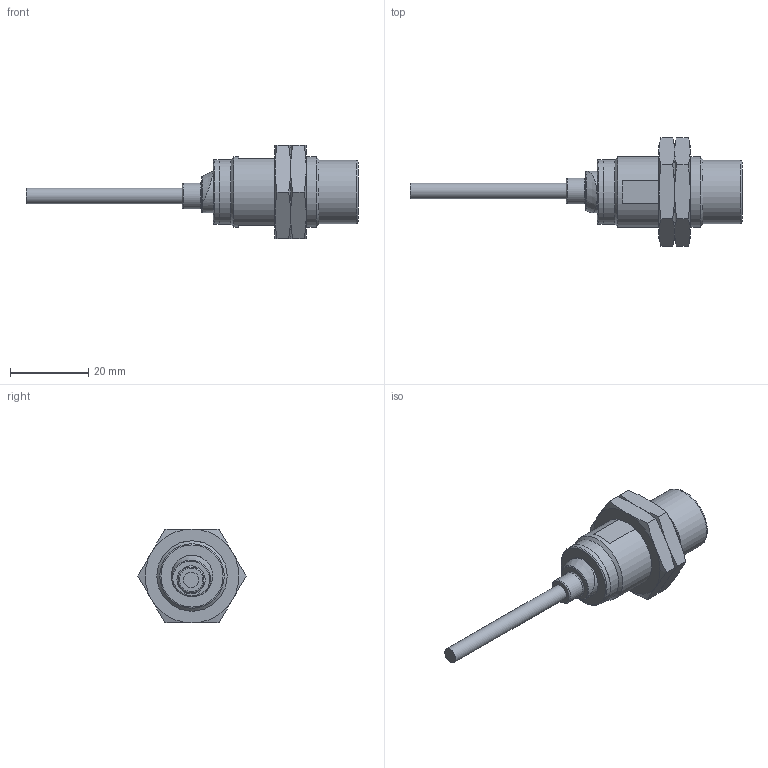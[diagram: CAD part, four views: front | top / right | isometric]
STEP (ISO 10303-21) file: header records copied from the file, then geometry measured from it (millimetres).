
FILE_DESCRIPTION( ( 'STEP AP203' ), '1' );
FILE_NAME( 'p:/temp/worker_110/2556_2360/app_57_02015052110550131562664192d056f_00_00_00_000/STEP/IGS703_2_03.stp', ' ', ( ' ' ), ( ' ' ), 'PSStep 15.0.47', 'PARTsolutions', ' ' );
FILE_SCHEMA( ( 'CONFIG_CONTROL_DESIGN' ) );
Length unit declared in the file: millimetre
Products named in the file (3): IGS703; _IGS703_p1; _IGS700_p2
Assembly tree (3 placements, depth 2):
  IGS703
    _IGS703_p1
    _IGS700_p2  x2
Bounding box: 85 x 27.71 x 24 mm (x, y, z)
Volume: 11828.4 mm3; surface area: 5231.4 mm2
Topology: 3 solids, 3 shells, 75 faces, 155 edges, 92 vertices
Faces by surface type: cone 31, plane 29, cylinder 9, torus 6
Full cylindrical faces by diameter (mm): 4 x1, 6.6 x1, 10.6 x1, 16.3 x1, 16.376 x2, 16.5 x1, 16.52 x1, 18 x1
Entity records: 1478 total; most frequent: CARTESIAN_POINT 386, DIRECTION 210, ORIENTED_EDGE 170, AXIS2_PLACEMENT_3D 98, EDGE_CURVE 85, EDGE_LOOP 77, FACE_OUTER_BOUND 64, VERTEX_POINT 60
